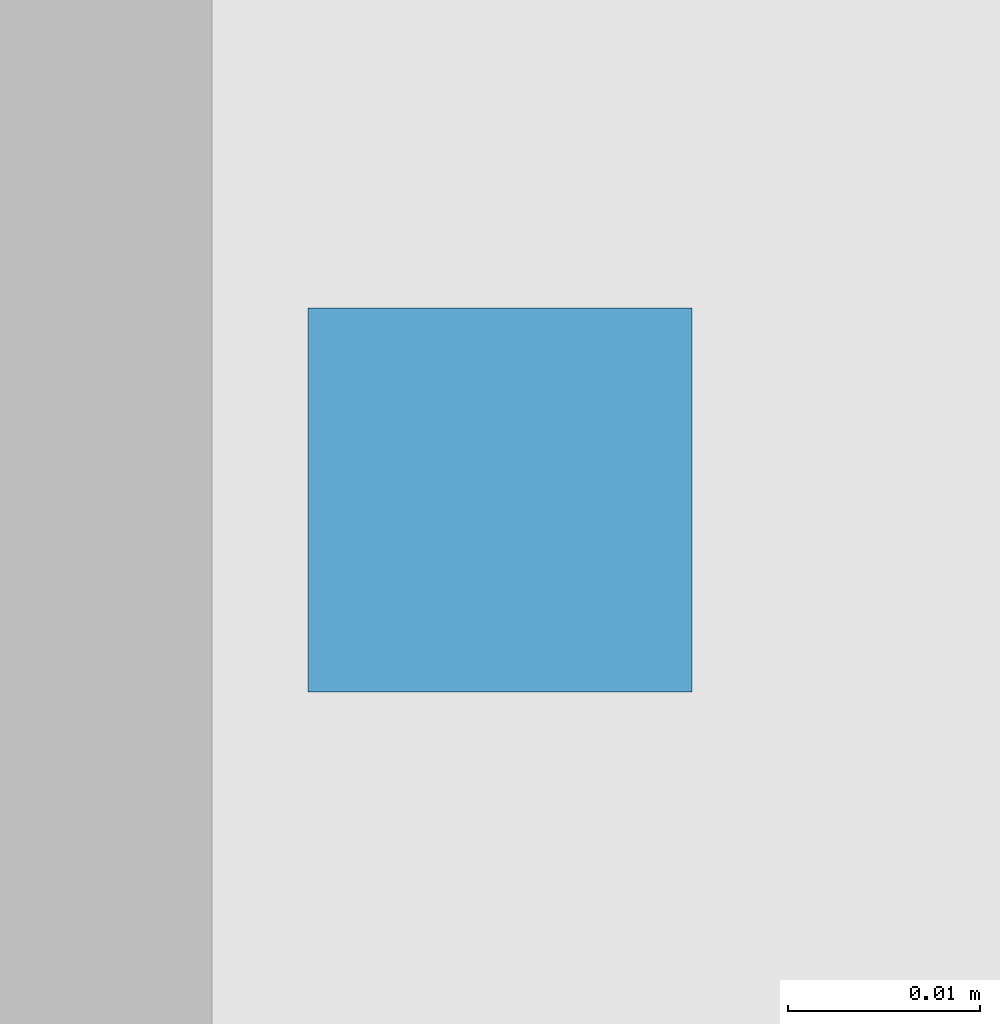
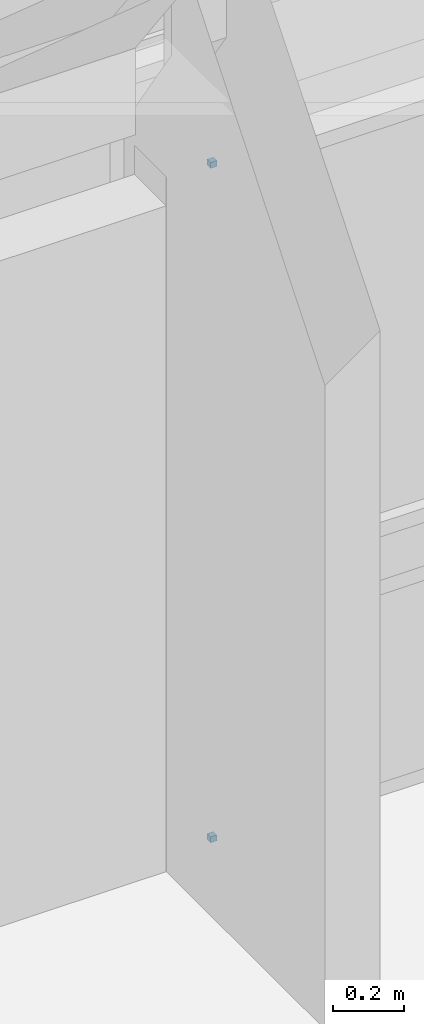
# One storey, part 59 of 117: 2 plates, 1 element without a shape of its own.
"""IFC4 building model written with IfcOpenShell, lengths in metres."""

from ifc_helpers import new_model, entity, si_unit, converted_unit, derived_unit, direction, frame, origin, place, context, subcontext, project, spatial, indexed_curve, outline, extrude, source, transform, mapped, material, type_object, type_shapes, element, aggregate, save


model = new_model("IFC4")

# Units and contexts
model_context = context("Model", 3, precision=1e-05, world=origin(), true_north=direction((6.123031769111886e-17, 1.0)))
body_context = subcontext(model_context, "Body", "Model", "MODEL_VIEW")
ifc_project = project(units=[si_unit("LENGTHUNIT", "METRE"), si_unit("AREAUNIT", "SQUARE_METRE"), si_unit("VOLUMEUNIT", "CUBIC_METRE"), converted_unit("PLANEANGLEUNIT", "DEGREE", entity("IfcRatioMeasure", 0.017453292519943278), si_unit("PLANEANGLEUNIT", "RADIAN"), dimensions=[0, 0, 0, 0, 0, 0, 0]), si_unit("MASSUNIT", "GRAM", prefix="KILO"), derived_unit("MASSDENSITYUNIT", [(si_unit("MASSUNIT", "GRAM", prefix="KILO"), 1), (si_unit("LENGTHUNIT", "METRE"), -3)]), derived_unit("MOMENTOFINERTIAUNIT", [(si_unit("LENGTHUNIT", "METRE"), 4)]), si_unit("TIMEUNIT", "SECOND"), si_unit("FREQUENCYUNIT", "HERTZ"), si_unit("THERMODYNAMICTEMPERATUREUNIT", "DEGREE_CELSIUS"), derived_unit("THERMALTRANSMITTANCEUNIT", [(si_unit("MASSUNIT", "GRAM", prefix="KILO"), 1), (si_unit("THERMODYNAMICTEMPERATUREUNIT", "KELVIN"), -1), (si_unit("TIMEUNIT", "SECOND"), -3)]), derived_unit("VOLUMETRICFLOWRATEUNIT", [(si_unit("LENGTHUNIT", "METRE"), 3), (si_unit("TIMEUNIT", "SECOND"), -1)]), derived_unit("MASSFLOWRATEUNIT", [(si_unit("MASSUNIT", "GRAM", prefix="KILO"), 1), (si_unit("TIMEUNIT", "SECOND"), -1)]), derived_unit("ROTATIONALFREQUENCYUNIT", [(si_unit("TIMEUNIT", "SECOND"), -1)]), si_unit("ELECTRICCURRENTUNIT", "AMPERE"), si_unit("ELECTRICVOLTAGEUNIT", "VOLT"), si_unit("POWERUNIT", "WATT"), si_unit("FORCEUNIT", "NEWTON", prefix="KILO"), si_unit("ILLUMINANCEUNIT", "LUX"), si_unit("LUMINOUSFLUXUNIT", "LUMEN"), si_unit("LUMINOUSINTENSITYUNIT", "CANDELA"), derived_unit("USERDEFINED", [(si_unit("MASSUNIT", "GRAM", prefix="KILO"), -1), (si_unit("LENGTHUNIT", "METRE"), -2), (si_unit("TIMEUNIT", "SECOND"), 3), (si_unit("LUMINOUSFLUXUNIT", "LUMEN"), 1)]), derived_unit("SOUNDPOWERUNIT", [(si_unit("MASSUNIT", "GRAM", prefix="KILO"), 1), (si_unit("LENGTHUNIT", "METRE"), 2), (si_unit("TIMEUNIT", "SECOND"), -3)]), derived_unit("SOUNDPRESSUREUNIT", [(si_unit("MASSUNIT", "GRAM", prefix="KILO"), 1), (si_unit("LENGTHUNIT", "METRE"), -1), (si_unit("TIMEUNIT", "SECOND"), -2)]), derived_unit("LINEARVELOCITYUNIT", [(si_unit("LENGTHUNIT", "METRE"), 1), (si_unit("TIMEUNIT", "SECOND"), -1)]), si_unit("PRESSUREUNIT", "PASCAL"), derived_unit("USERDEFINED", [(si_unit("LENGTHUNIT", "METRE"), -2), (si_unit("MASSUNIT", "GRAM", prefix="KILO"), 1), (si_unit("TIMEUNIT", "SECOND"), -2)]), derived_unit("LINEARFORCEUNIT", [(si_unit("MASSUNIT", "GRAM", prefix="KILO"), 1), (si_unit("LENGTHUNIT", "METRE"), 1), (si_unit("TIMEUNIT", "SECOND"), -2), (si_unit("LENGTHUNIT", "METRE"), -1)]), derived_unit("PLANARFORCEUNIT", [(si_unit("MASSUNIT", "GRAM", prefix="KILO"), 1), (si_unit("LENGTHUNIT", "METRE"), 1), (si_unit("TIMEUNIT", "SECOND"), -2), (si_unit("LENGTHUNIT", "METRE"), -2)])], contexts=[model_context])

# Site, building, storey
site_placement = place(None, origin())
site = spatial("IfcSite", under=ifc_project, at=site_placement, Name="Superficie", CompositionType="ELEMENT")
building_placement = place(site_placement, origin())
building = spatial("IfcBuilding", under=site, at=building_placement, CompositionType="ELEMENT")
storey_placement = place(building_placement, origin())
storey = spatial("IfcBuildingStorey", under=building, at=storey_placement, Name="Nivel 0", CompositionType="ELEMENT", Elevation=0.0)

# Curtain wall, plates
curtain_wall_type = type_object("IfcCurtainWallType", Name="Muro cortina:Muro cortina - simple", PredefinedType="NOTDEFINED")
curtain_wall_placement = place(storey_placement, origin())
curtain_wall = element("IfcCurtainWall", 1, at=curtain_wall_placement, inside=storey, type_object=curtain_wall_type, Name="Muro cortina:Muro cortina - simple", ObjectType="Muro cortina:Muro cortina - simple", PredefinedType="NOTDEFINED")
ifc_material = material(Name="Cristal", Category="Vidrio")
plate_type = type_object("IfcPlateType", Name="Panel de sistema:Acristalado", PredefinedType="CURTAIN_PANEL", material=ifc_material)
shared_shape = source(origin(), body_context, "Body", "SweptSolid", [
    extrude(outline(indexed_curve([(-0.01, -0.009999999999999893), (0.01, -0.009999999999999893), (0.01, 0.009999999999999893), (-0.01, 0.009999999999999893), (-0.01, -0.009999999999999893)], self_intersect=False)), frame((0.0, 0.0, 0.0), z_axis=(0.0, 0.0, 1.0), x_axis=(0.0, 1.0, 0.0)), (0.0, 0.0, 1.0), 0.02000000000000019),
])
type_shapes(plate_type, [shared_shape])
plate_1_placement = place(curtain_wall_placement, frame((-7.243200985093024, 3.555829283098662, 0.0), z_axis=(0.0, 0.0, 1.0), x_axis=(-1.0, 0.0, 0.0)))
plate_1 = element("IfcPlate", 2, at=plate_1_placement, type_object=plate_type, material=ifc_material, Name="Panel de sistema:Acristalado", ObjectType="Panel de sistema:Acristalado", PredefinedType="CURTAIN_PANEL", context=body_context, shape_type="MappedRepresentation", body=[
    mapped(shared_shape, transform((0.0, 0.0, 0.0), scale=1.0)),
])
plate_2_placement = place(curtain_wall_placement, frame((-7.243200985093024, 3.555829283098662, 2.3299999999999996), z_axis=(0.0, 0.0, 1.0), x_axis=(-1.0, 0.0, 0.0)))
plate_2 = element("IfcPlate", 3, at=plate_2_placement, type_object=plate_type, material=ifc_material, Name="Panel de sistema:Acristalado", ObjectType="Panel de sistema:Acristalado", PredefinedType="CURTAIN_PANEL", context=body_context, shape_type="MappedRepresentation", body=[
    mapped(shared_shape, transform((0.0, 0.0, 0.0), scale=1.0)),
])
aggregate(curtain_wall, [plate_1, plate_2])

save(model, "model.ifc")
